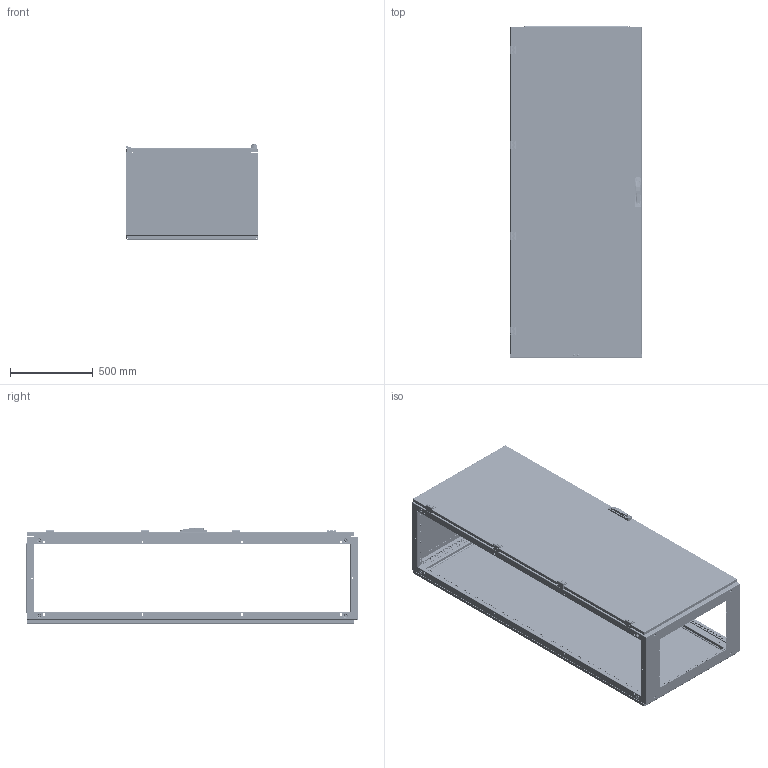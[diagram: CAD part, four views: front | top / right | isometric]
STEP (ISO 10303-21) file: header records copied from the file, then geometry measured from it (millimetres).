
FILE_DESCRIPTION (( 'STEP AP214' ), '1' );
FILE_NAME ('QA200805.step', '2011-08-10T08:28:25', ( 'Radek Veselý' ), ( 'Siemens and Partners' ), 'SwSTEP 2.0', 'SolidWorks 2006303', '' );
FILE_SCHEMA (( 'AUTOMOTIVE_DESIGN' ));
Length unit declared in the file: millimetre
Products named in the file (1): QA200805
Bounding box: 800 x 2004.5 x 576 mm (x, y, z)
Volume: 10901354.7 mm3; surface area: 12749643.3 mm2
Topology: 94 solids, 94 shells, 6967 faces, 18996 edges, 12216 vertices
Faces by surface type: plane 3736, cylinder 2667, cone 292, torus 164, sphere 60, bspline 48
Entity records: 304216 total; most frequent: CARTESIAN_POINT 40630, DIRECTION 38488, ORIENTED_EDGE 37600, EDGE_CURVE 18800, AXIS2_PLACEMENT_3D 12965, VECTOR 12558, LINE 12558, VERTEX_POINT 12200
